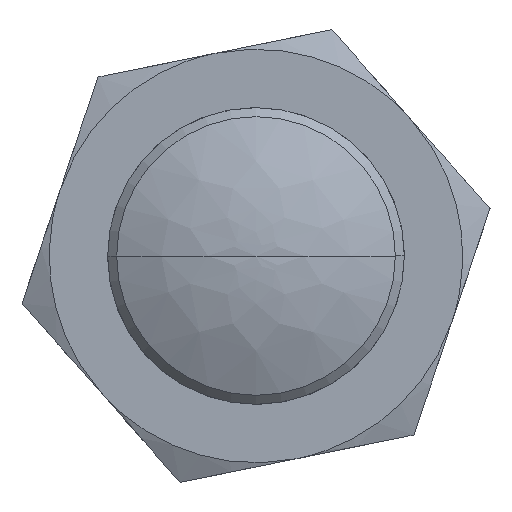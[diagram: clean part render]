
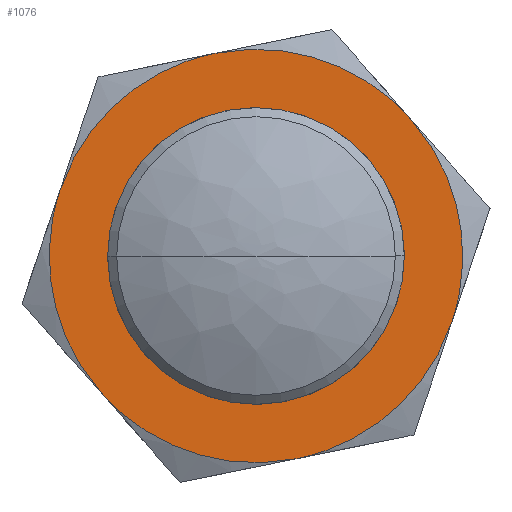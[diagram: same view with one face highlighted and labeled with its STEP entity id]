
A CAD part, left-side view. The second image highlights one B-rep face of the part: STEP entity #1076.
In plain terms, the highlighted planar face has unit normal (-1, 0, 0).
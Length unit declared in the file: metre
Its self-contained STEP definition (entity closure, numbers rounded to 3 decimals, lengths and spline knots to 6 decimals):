
#26 = VERTEX_POINT ( 'NONE', #1833 ) ;
#112 = FACE_OUTER_BOUND ( 'NONE', #1372, .T. ) ;
#161 = EDGE_CURVE ( 'NONE', #417, #1976, #1693, .T. ) ;
#202 = CARTESIAN_POINT ( 'NONE',  ( -0.007, 0.008419, 0.023 ) ) ;
#215 = CARTESIAN_POINT ( 'NONE',  ( -0.007, 0.019919, -0.0115 ) ) ;
#252 = CARTESIAN_POINT ( 'NONE',  ( -0.007, 0.024128, -0.004209 ) ) ;
#292 = CARTESIAN_POINT ( 'NONE',  ( -0.007, 0., -0.0165 ) ) ;
#320 = VERTEX_POINT ( 'NONE', #1742 ) ;
#346 = PLANE ( 'NONE',  #1247 ) ;
#357 = CARTESIAN_POINT ( 'NONE',  ( -0.007, 0., 0. ) ) ;
#385 = CARTESIAN_POINT ( 'NONE',  ( -0.007, -0.024128, 0.004209 ) ) ;
#390 = CARTESIAN_POINT ( 'NONE',  ( -0.007, -0.019919, -0.0115 ) ) ;
#405 = CARTESIAN_POINT ( 'NONE',  ( -0.007, 0.019919, 0.0115 ) ) ;
#417 = VERTEX_POINT ( 'NONE', #292 ) ;
#444 = CARTESIAN_POINT ( 'NONE',  ( -0.007, -0.015708, 0.018793 ) ) ;
#509 = DIRECTION ( 'NONE',  ( 1., 0., 0. ) ) ;
#516 = DIRECTION ( 'NONE',  ( 0., 0., -1. ) ) ;
#518 = CIRCLE ( 'NONE', #1347, 0.0165 ) ;
#541 = EDGE_CURVE ( 'NONE', #1952, #1948, #1778, .T. ) ;
#544 = CARTESIAN_POINT ( 'NONE',  ( -0.007, 0., 0. ) ) ;
#549 = CARTESIAN_POINT ( 'NONE',  ( -0.007, -0.019919, -0.0115 ) ) ;
#564 = ORIENTED_EDGE ( 'NONE', *, *, #1103, .F. ) ;
#568 = CARTESIAN_POINT ( 'NONE',  ( -0.007, 0.019919, -0.0115 ) ) ;
#594 = EDGE_CURVE ( 'NONE', #26, #981, #1558, .T. ) ;
#710 = DIRECTION ( 'NONE',  ( 0., 0., -1. ) ) ;
#719 = CARTESIAN_POINT ( 'NONE',  ( -0.007, -0.008419, -0.023 ) ) ;
#801 = CARTESIAN_POINT ( 'NONE',  ( -0.007, 0.019919, 0.0115 ) ) ;
#848 = CARTESIAN_POINT ( 'NONE',  ( -0.007, 0.008419, -0.023 ) ) ;
#965 = FACE_BOUND ( 'NONE', #1271, .T. ) ;
#981 = VERTEX_POINT ( 'NONE', #568 ) ;
#984 = EDGE_CURVE ( 'NONE', #981, #1952, #1700, .T. ) ;
#992 = CARTESIAN_POINT ( 'NONE',  ( -0.007, 0.019919, 0.0115 ) ) ;
#993 = VERTEX_POINT ( 'NONE', #1483 ) ;
#1043 = CARTESIAN_POINT ( 'NONE',  ( -0.007, 0.019919, -0.0115 ) ) ;
#1076 = ADVANCED_FACE ( 'NONE', ( #965, #112 ), #346, .F. ) ;
#1080 = AXIS2_PLACEMENT_3D ( 'NONE', #544, #1626, #710 ) ;
#1103 = EDGE_CURVE ( 'NONE', #1976, #417, #518, .T. ) ;
#1121 = ORIENTED_EDGE ( 'NONE', *, *, #161, .F. ) ;
#1134 = CARTESIAN_POINT ( 'NONE',  ( -0.007, 0.015709, 0.018791 ) ) ;
#1146 = CARTESIAN_POINT ( 'NONE',  ( -0.007, -0.015709, -0.018791 ) ) ;
#1148 = CARTESIAN_POINT ( 'NONE',  ( -0.007, 0.015709, -0.018791 ) ) ;
#1165 = CARTESIAN_POINT ( 'NONE',  ( -0.007, -0.019919, 0.0115 ) ) ;
#1167 =( BOUNDED_CURVE ( )  B_SPLINE_CURVE ( 3, ( #1165, #385, #1471, #549 ),
 .UNSPECIFIED., .F., .T. ) 
 B_SPLINE_CURVE_WITH_KNOTS ( ( 4, 4 ),
 ( 0., 0.023989 ),
 .UNSPECIFIED. ) 
 CURVE ( )  GEOMETRIC_REPRESENTATION_ITEM ( )  RATIONAL_B_SPLINE_CURVE ( ( 0.998, 0.909, 0.909, 0.998 ) ) 
 REPRESENTATION_ITEM ( '' )  );
#1222 = CARTESIAN_POINT ( 'NONE',  ( -0.007, 0., 0.023 ) ) ;
#1247 = AXIS2_PLACEMENT_3D ( 'NONE', #1437, #509, #1596 ) ;
#1253 =( BOUNDED_CURVE ( )  B_SPLINE_CURVE ( 3, ( #1222, #1378, #444, #1531 ),
 .UNSPECIFIED., .F., .F. ) 
 B_SPLINE_CURVE_WITH_KNOTS ( ( 4, 4 ),
 ( 0., 0.023989 ),
 .UNSPECIFIED. ) 
 CURVE ( )  GEOMETRIC_REPRESENTATION_ITEM ( )  RATIONAL_B_SPLINE_CURVE ( ( 1., 0.91, 0.91, 0.998 ) ) 
 REPRESENTATION_ITEM ( '' )  );
#1271 = EDGE_LOOP ( 'NONE', ( #1121, #564 ) ) ;
#1291 = CARTESIAN_POINT ( 'NONE',  ( -0.007, 0., 0.023 ) ) ;
#1341 = CARTESIAN_POINT ( 'NONE',  ( -0.007, 0.024128, 0.004209 ) ) ;
#1347 = AXIS2_PLACEMENT_3D ( 'NONE', #357, #1442, #516 ) ;
#1372 = EDGE_LOOP ( 'NONE', ( #1880, #1764, #1829, #1409, #1446, #1477 ) ) ;
#1378 = CARTESIAN_POINT ( 'NONE',  ( -0.007, -0.008416, 0.023 ) ) ;
#1383 =( BOUNDED_CURVE ( )  B_SPLINE_CURVE ( 3, ( #390, #1146, #719, #1801 ),
 .UNSPECIFIED., .F., .F. ) 
 B_SPLINE_CURVE_WITH_KNOTS ( ( 4, 4 ),
 ( 0., 0.023989 ),
 .UNSPECIFIED. ) 
 CURVE ( )  GEOMETRIC_REPRESENTATION_ITEM ( )  RATIONAL_B_SPLINE_CURVE ( ( 0.998, 0.909, 0.909, 0.998 ) ) 
 REPRESENTATION_ITEM ( '' )  );
#1409 = ORIENTED_EDGE ( 'NONE', *, *, #541, .F. ) ;
#1410 = CARTESIAN_POINT ( 'NONE',  ( -0.007, 0., 0.023 ) ) ;
#1437 = CARTESIAN_POINT ( 'NONE',  ( -0.007, -0.023276, 0.023276 ) ) ;
#1442 = DIRECTION ( 'NONE',  ( -1., 0., 0. ) ) ;
#1446 = ORIENTED_EDGE ( 'NONE', *, *, #984, .F. ) ;
#1471 = CARTESIAN_POINT ( 'NONE',  ( -0.007, -0.024128, -0.004209 ) ) ;
#1477 = ORIENTED_EDGE ( 'NONE', *, *, #594, .F. ) ;
#1483 = CARTESIAN_POINT ( 'NONE',  ( -0.007, -0.019919, 0.0115 ) ) ;
#1531 = CARTESIAN_POINT ( 'NONE',  ( -0.007, -0.019919, 0.0115 ) ) ;
#1551 = EDGE_CURVE ( 'NONE', #320, #26, #1383, .T. ) ;
#1558 =( BOUNDED_CURVE ( )  B_SPLINE_CURVE ( 3, ( #1933, #848, #1148, #215 ),
 .UNSPECIFIED., .F., .T. ) 
 B_SPLINE_CURVE_WITH_KNOTS ( ( 4, 4 ),
 ( 0., 0.023989 ),
 .UNSPECIFIED. ) 
 CURVE ( )  GEOMETRIC_REPRESENTATION_ITEM ( )  RATIONAL_B_SPLINE_CURVE ( ( 0.998, 0.909, 0.909, 0.998 ) ) 
 REPRESENTATION_ITEM ( '' )  );
#1596 = DIRECTION ( 'NONE',  ( 0., 0., -1. ) ) ;
#1626 = DIRECTION ( 'NONE',  ( -1., 0., 0. ) ) ;
#1633 = EDGE_CURVE ( 'NONE', #1948, #993, #1253, .T. ) ;
#1693 = CIRCLE ( 'NONE', #1080, 0.0165 ) ;
#1700 =( BOUNDED_CURVE ( )  B_SPLINE_CURVE ( 3, ( #1043, #252, #1341, #405 ),
 .UNSPECIFIED., .F., .T. ) 
 B_SPLINE_CURVE_WITH_KNOTS ( ( 4, 4 ),
 ( 0., 0.023989 ),
 .UNSPECIFIED. ) 
 CURVE ( )  GEOMETRIC_REPRESENTATION_ITEM ( )  RATIONAL_B_SPLINE_CURVE ( ( 0.998, 0.909, 0.909, 0.998 ) ) 
 REPRESENTATION_ITEM ( '' )  );
#1710 = EDGE_CURVE ( 'NONE', #993, #320, #1167, .T. ) ;
#1719 = CARTESIAN_POINT ( 'NONE',  ( -0.007, 0., 0.0165 ) ) ;
#1742 = CARTESIAN_POINT ( 'NONE',  ( -0.007, -0.019919, -0.0115 ) ) ;
#1764 = ORIENTED_EDGE ( 'NONE', *, *, #1710, .F. ) ;
#1778 =( BOUNDED_CURVE ( )  B_SPLINE_CURVE ( 3, ( #992, #1134, #202, #1291 ),
 .UNSPECIFIED., .F., .T. ) 
 B_SPLINE_CURVE_WITH_KNOTS ( ( 4, 4 ),
 ( 0., 0.023989 ),
 .UNSPECIFIED. ) 
 CURVE ( )  GEOMETRIC_REPRESENTATION_ITEM ( )  RATIONAL_B_SPLINE_CURVE ( ( 0.998, 0.909, 0.909, 0.998 ) ) 
 REPRESENTATION_ITEM ( '' )  );
#1801 = CARTESIAN_POINT ( 'NONE',  ( -0.007, 0., -0.023 ) ) ;
#1829 = ORIENTED_EDGE ( 'NONE', *, *, #1633, .F. ) ;
#1833 = CARTESIAN_POINT ( 'NONE',  ( -0.007, 0., -0.023 ) ) ;
#1880 = ORIENTED_EDGE ( 'NONE', *, *, #1551, .F. ) ;
#1933 = CARTESIAN_POINT ( 'NONE',  ( -0.007, 0., -0.023 ) ) ;
#1948 = VERTEX_POINT ( 'NONE', #1410 ) ;
#1952 = VERTEX_POINT ( 'NONE', #801 ) ;
#1976 = VERTEX_POINT ( 'NONE', #1719 ) ;
